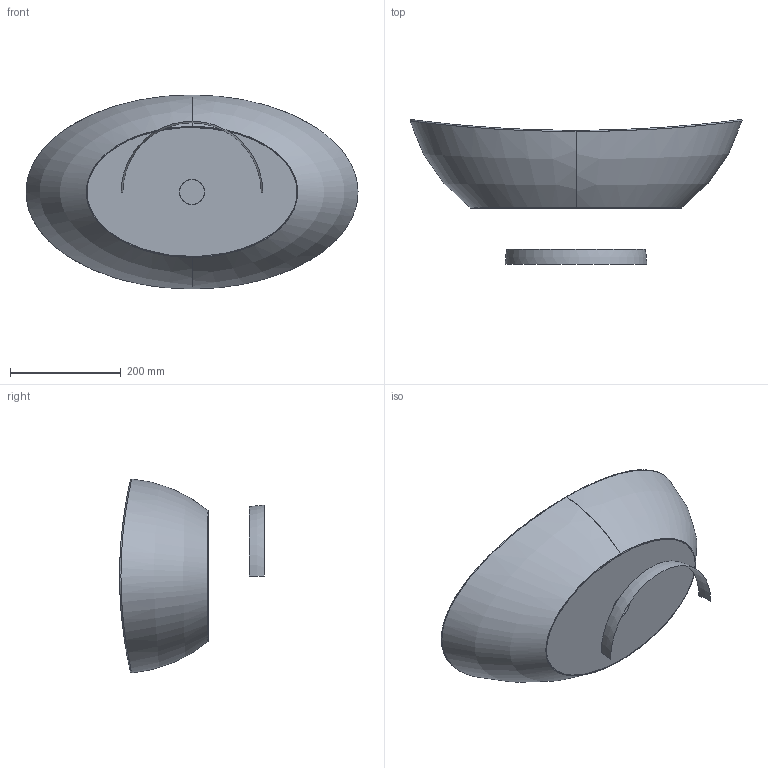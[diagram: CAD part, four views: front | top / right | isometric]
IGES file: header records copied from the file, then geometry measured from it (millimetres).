
Start section: SolidWorks IGES file using analytic representation for surfaces
Global section: file name: D:\Users\M.Szymanski\Desktop\Umywalki\seria Namur\03. do przegrania\Unb_NAMUR_60x35.IGS; native system: SolidWorks 2011; preprocessor: SolidWorks 2011; author: M.Szymanski; date: 180416.105526; units: millimetre
Bounding box: 598.45 x 261.15 x 349.62 mm (x, y, z)
Surface area: 567218.4 mm2 (no closed solid volume)
Topology: 0 solids, 0 shells, 30 faces, 762 edges, 761 vertices
Faces by surface type: bspline 21, revolution 9
